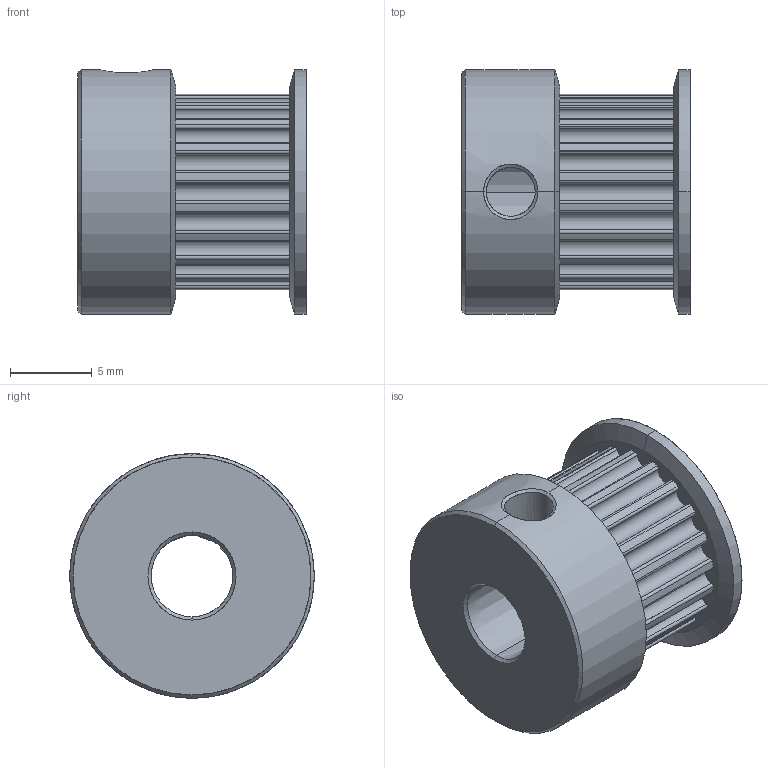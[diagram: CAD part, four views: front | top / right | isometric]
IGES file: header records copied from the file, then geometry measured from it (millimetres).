
Start section: SolidWorks IGES file using analytic representation for surfaces
Global section: file name: E:\3D printer\GT2_20teeth_pulley.IGS; native system: SolidWorks 2013; preprocessor: SolidWorks 2013; author: Admin; date: 141006.205921; units: millimetre
Bounding box: 14 x 15 x 15 mm (x, y, z)
Surface area: 1395 mm2 (no closed solid volume)
Topology: 0 solids, 0 shells, 134 faces, 1608 edges, 1608 vertices
Faces by surface type: revolution 127, bspline 7
